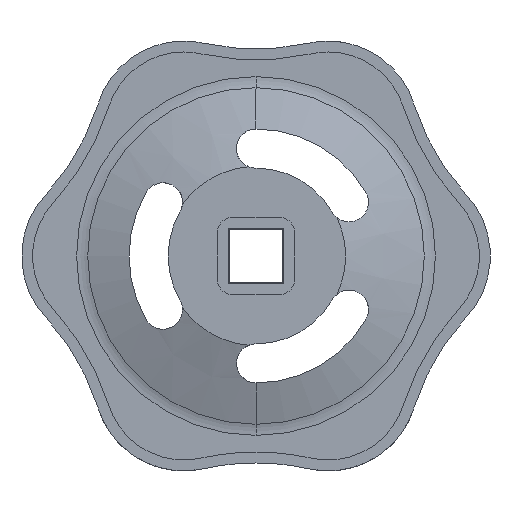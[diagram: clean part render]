
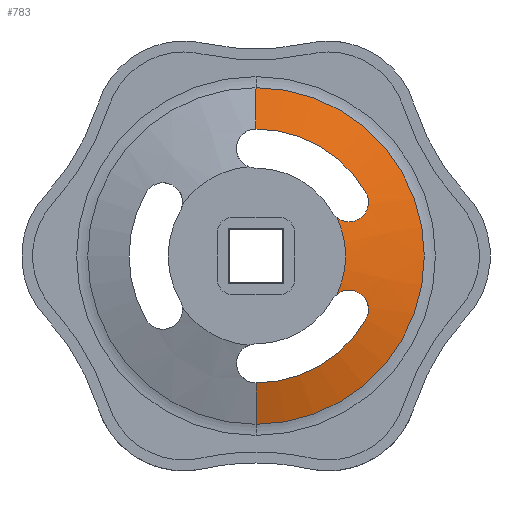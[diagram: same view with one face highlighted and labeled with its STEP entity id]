
A CAD part, left-side view. The second image highlights one B-rep face of the part: STEP entity #783.
In plain terms, the highlighted conical face has half-angle 72 degrees and reference radius 21.551 mm.
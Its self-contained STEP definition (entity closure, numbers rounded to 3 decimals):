
#3 = CARTESIAN_POINT ( 'NONE',  ( 8.653, -14.222, -7.866 ) ) ;
#16 = AXIS2_PLACEMENT_3D ( 'NONE', #666, #2339, #219 ) ;
#27 = EDGE_CURVE ( 'NONE', #854, #882, #1764, .T. ) ;
#32 = CARTESIAN_POINT ( 'NONE',  ( 8.581, -14.422, -7.004 ) ) ;
#33 = B_SPLINE_CURVE_WITH_KNOTS ( 'NONE', 3,
 ( #644, #2556, #840, #2234, #2045, #611, #2066, #3004 ),
 .UNSPECIFIED., .F., .F.,
 ( 4, 2, 2, 4 ),
 ( 0.005, 0.006, 0.006, 0.007 ),
 .UNSPECIFIED. ) ;
#90 = CARTESIAN_POINT ( 'NONE',  ( 8.611, -14.384, 7.288 ) ) ;
#99 = CARTESIAN_POINT ( 'NONE',  ( 10.375, 0., -21.551 ) ) ;
#169 = ORIENTED_EDGE ( 'NONE', *, *, #824, .T. ) ;
#188 = CARTESIAN_POINT ( 'NONE',  ( 8.342, -14.162, 5.773 ) ) ;
#204 = CARTESIAN_POINT ( 'NONE',  ( 7.974, -13.322, 4.802 ) ) ;
#214 = CARTESIAN_POINT ( 'NONE',  ( 7.203, -10.86, -4.587 ) ) ;
#219 = DIRECTION ( 'NONE',  ( 0., 0., -1. ) ) ;
#241 = CARTESIAN_POINT ( 'NONE',  ( 8.54, -14.42, -6.712 ) ) ;
#255 = CARTESIAN_POINT ( 'NONE',  ( 7.428, -11.692, -4.368 ) ) ;
#343 = AXIS2_PLACEMENT_3D ( 'NONE', #2116, #2147, #926 ) ;
#350 = DIRECTION ( 'NONE',  ( 0., 0., -1. ) ) ;
#377 = CARTESIAN_POINT ( 'NONE',  ( 8.653, -14.073, -8.125 ) ) ;
#393 = VERTEX_POINT ( 'NONE', #1754 ) ;
#448 = VERTEX_POINT ( 'NONE', #778 ) ;
#454 = CARTESIAN_POINT ( 'NONE',  ( 7.56, -12.122, 4.375 ) ) ;
#460 = ORIENTED_EDGE ( 'NONE', *, *, #2372, .T. ) ;
#466 = EDGE_CURVE ( 'NONE', #2594, #2145, #660, .T. ) ;
#500 = DIRECTION ( 'NONE',  ( 1., 0., 0. ) ) ;
#512 = DIRECTION ( 'NONE',  ( 0., 0., -1. ) ) ;
#531 = DIRECTION ( 'NONE',  ( -1., 0., 0. ) ) ;
#563 = CARTESIAN_POINT ( 'NONE',  ( 8.393, -14.251, 5.976 ) ) ;
#584 = ORIENTED_EDGE ( 'NONE', *, *, #2337, .F. ) ;
#611 = CARTESIAN_POINT ( 'NONE',  ( 7.198, -10.841, 4.597 ) ) ;
#644 = CARTESIAN_POINT ( 'NONE',  ( 7.495, -11.908, 4.375 ) ) ;
#660 = B_SPLINE_CURVE_WITH_KNOTS ( 'NONE', 3,
 ( #2453, #2922, #2200, #90, #794, #1740, #2690, #563, #188, #857, #874, #2559, #204, #1088, #2068, #2826, #454, #2796 ),
 .UNSPECIFIED., .F., .F.,
 ( 4, 2, 2, 2, 2, 2, 2, 2, 4 ),
 ( 0., 0.001, 0.001, 0.002, 0.003, 0.003, 0.004, 0.005, 0.005 ),
 .UNSPECIFIED. ) ;
#666 = CARTESIAN_POINT ( 'NONE',  ( 10.375, 0., 0. ) ) ;
#698 = ORIENTED_EDGE ( 'NONE', *, *, #709, .T. ) ;
#709 = EDGE_CURVE ( 'NONE', #1777, #2594, #897, .T. ) ;
#747 = CIRCLE ( 'NONE', #1539, 11.472 ) ;
#778 = CARTESIAN_POINT ( 'NONE',  ( 10.375, 0., 21.551 ) ) ;
#783 = ADVANCED_FACE ( 'NONE', ( #1202 ), #2132, .T. ) ;
#790 = CARTESIAN_POINT ( 'NONE',  ( 8.653, 0., -16.25 ) ) ;
#794 = CARTESIAN_POINT ( 'NONE',  ( 8.587, -14.411, 7.064 ) ) ;
#824 = EDGE_CURVE ( 'NONE', #882, #448, #1686, .T. ) ;
#840 = CARTESIAN_POINT ( 'NONE',  ( 7.413, -11.637, 4.386 ) ) ;
#854 = VERTEX_POINT ( 'NONE', #790 ) ;
#857 = CARTESIAN_POINT ( 'NONE',  ( 8.229, -13.938, 5.401 ) ) ;
#874 = CARTESIAN_POINT ( 'NONE',  ( 8.169, -13.804, 5.231 ) ) ;
#882 = VERTEX_POINT ( 'NONE', #980 ) ;
#897 = CIRCLE ( 'NONE', #343, 16.25 ) ;
#921 = CARTESIAN_POINT ( 'NONE',  ( 7.877, -13.064, -4.641 ) ) ;
#926 = DIRECTION ( 'NONE',  ( 0., 0., -1. ) ) ;
#949 = VERTEX_POINT ( 'NONE', #377 ) ;
#980 = CARTESIAN_POINT ( 'NONE',  ( 10.375, 0., -21.551 ) ) ;
#988 = ORIENTED_EDGE ( 'NONE', *, *, #1960, .T. ) ;
#998 = CARTESIAN_POINT ( 'NONE',  ( 7.1, -10.371, -4.903 ) ) ;
#1088 = CARTESIAN_POINT ( 'NONE',  ( 7.837, -12.949, 4.592 ) ) ;
#1103 = CARTESIAN_POINT ( 'NONE',  ( 10.375, 0., 21.551 ) ) ;
#1106 = EDGE_CURVE ( 'NONE', #949, #854, #1239, .T. ) ;
#1121 = DIRECTION ( 'NONE',  ( 0.309, 0., 0.951 ) ) ;
#1127 = ORIENTED_EDGE ( 'NONE', *, *, #466, .T. ) ;
#1142 = AXIS2_PLACEMENT_3D ( 'NONE', #2687, #531, #1214 ) ;
#1174 = B_SPLINE_CURVE_WITH_KNOTS ( 'NONE', 3,
 ( #1384, #2333, #214, #2097, #255, #3033, #2314, #921, #2835, #2805, #3047, #1654, #2142, #241, #32, #2128, #3, #1862 ),
 .UNSPECIFIED., .F., .F.,
 ( 4, 2, 2, 2, 2, 2, 2, 2, 4 ),
 ( 0., 0.001, 0.002, 0.003, 0.004, 0.004, 0.005, 0.006, 0.007 ),
 .UNSPECIFIED. ) ;
#1202 = FACE_OUTER_BOUND ( 'NONE', #2275, .T. ) ;
#1214 = DIRECTION ( 'NONE',  ( 0., 0., 1. ) ) ;
#1232 = DIRECTION ( 'NONE',  ( -1., 0., 0. ) ) ;
#1239 = CIRCLE ( 'NONE', #1348, 16.25 ) ;
#1244 = EDGE_CURVE ( 'NONE', #1396, #393, #747, .T. ) ;
#1348 = AXIS2_PLACEMENT_3D ( 'NONE', #2568, #500, #512 ) ;
#1384 = CARTESIAN_POINT ( 'NONE',  ( 7.1, -10.371, -4.903 ) ) ;
#1396 = VERTEX_POINT ( 'NONE', #998 ) ;
#1539 = AXIS2_PLACEMENT_3D ( 'NONE', #1951, #1232, #350 ) ;
#1581 = ORIENTED_EDGE ( 'NONE', *, *, #1244, .F. ) ;
#1597 = CARTESIAN_POINT ( 'NONE',  ( 7.495, -11.908, 4.375 ) ) ;
#1654 = CARTESIAN_POINT ( 'NONE',  ( 8.368, -14.213, -5.866 ) ) ;
#1686 = CIRCLE ( 'NONE', #1142, 21.551 ) ;
#1740 = CARTESIAN_POINT ( 'NONE',  ( 8.523, -14.405, 6.621 ) ) ;
#1754 = CARTESIAN_POINT ( 'NONE',  ( 7.1, -10.371, 4.903 ) ) ;
#1764 = LINE ( 'NONE', #99, #1903 ) ;
#1777 = VERTEX_POINT ( 'NONE', #2497 ) ;
#1862 = CARTESIAN_POINT ( 'NONE',  ( 8.653, -14.073, -8.125 ) ) ;
#1903 = VECTOR ( 'NONE', #2170, 1000. ) ;
#1951 = CARTESIAN_POINT ( 'NONE',  ( 7.1, 0., 0. ) ) ;
#1960 = EDGE_CURVE ( 'NONE', #1396, #949, #1174, .T. ) ;
#2011 = LINE ( 'NONE', #1103, #2867 ) ;
#2045 = CARTESIAN_POINT ( 'NONE',  ( 7.3, -11.233, 4.464 ) ) ;
#2066 = CARTESIAN_POINT ( 'NONE',  ( 7.142, -10.595, 4.729 ) ) ;
#2068 = CARTESIAN_POINT ( 'NONE',  ( 7.767, -12.749, 4.511 ) ) ;
#2097 = CARTESIAN_POINT ( 'NONE',  ( 7.346, -11.41, -4.408 ) ) ;
#2116 = CARTESIAN_POINT ( 'NONE',  ( 8.653, 0., 0. ) ) ;
#2127 = CARTESIAN_POINT ( 'NONE',  ( 8.653, -14.073, 8.125 ) ) ;
#2128 = CARTESIAN_POINT ( 'NONE',  ( 8.638, -14.322, -7.589 ) ) ;
#2132 = CONICAL_SURFACE ( 'NONE', #16, 21.551, 1.257 ) ;
#2142 = CARTESIAN_POINT ( 'NONE',  ( 8.432, -14.314, -6.136 ) ) ;
#2145 = VERTEX_POINT ( 'NONE', #1597 ) ;
#2147 = DIRECTION ( 'NONE',  ( 1., 0., 0. ) ) ;
#2170 = DIRECTION ( 'NONE',  ( 0.309, 0., -0.951 ) ) ;
#2200 = CARTESIAN_POINT ( 'NONE',  ( 8.644, -14.271, 7.722 ) ) ;
#2234 = CARTESIAN_POINT ( 'NONE',  ( 7.337, -11.368, 4.43 ) ) ;
#2275 = EDGE_LOOP ( 'NONE', ( #584, #698, #1127, #460, #1581, #988, #2790, #2799, #169 ) ) ;
#2314 = CARTESIAN_POINT ( 'NONE',  ( 7.694, -12.536, -4.439 ) ) ;
#2333 = CARTESIAN_POINT ( 'NONE',  ( 7.143, -10.604, -4.721 ) ) ;
#2337 = EDGE_CURVE ( 'NONE', #1777, #448, #2011, .T. ) ;
#2339 = DIRECTION ( 'NONE',  ( 1., 0., 0. ) ) ;
#2372 = EDGE_CURVE ( 'NONE', #2145, #393, #33, .T. ) ;
#2453 = CARTESIAN_POINT ( 'NONE',  ( 8.653, -14.073, 8.125 ) ) ;
#2497 = CARTESIAN_POINT ( 'NONE',  ( 8.653, 0., 16.25 ) ) ;
#2556 = CARTESIAN_POINT ( 'NONE',  ( 7.453, -11.772, 4.375 ) ) ;
#2559 = CARTESIAN_POINT ( 'NONE',  ( 8.04, -13.493, 4.93 ) ) ;
#2568 = CARTESIAN_POINT ( 'NONE',  ( 8.653, 0., 0. ) ) ;
#2594 = VERTEX_POINT ( 'NONE', #2127 ) ;
#2687 = CARTESIAN_POINT ( 'NONE',  ( 10.375, 0., 0. ) ) ;
#2690 = CARTESIAN_POINT ( 'NONE',  ( 8.484, -14.372, 6.398 ) ) ;
#2790 = ORIENTED_EDGE ( 'NONE', *, *, #1106, .T. ) ;
#2796 = CARTESIAN_POINT ( 'NONE',  ( 7.495, -11.908, 4.375 ) ) ;
#2799 = ORIENTED_EDGE ( 'NONE', *, *, #27, .T. ) ;
#2805 = CARTESIAN_POINT ( 'NONE',  ( 8.141, -13.741, -5.151 ) ) ;
#2826 = CARTESIAN_POINT ( 'NONE',  ( 7.629, -12.338, 4.403 ) ) ;
#2835 = CARTESIAN_POINT ( 'NONE',  ( 7.967, -13.306, -4.783 ) ) ;
#2867 = VECTOR ( 'NONE', #1121, 1000. ) ;
#2922 = CARTESIAN_POINT ( 'NONE',  ( 8.653, -14.186, 7.929 ) ) ;
#3004 = CARTESIAN_POINT ( 'NONE',  ( 7.1, -10.371, 4.903 ) ) ;
#3033 = CARTESIAN_POINT ( 'NONE',  ( 7.603, -12.26, -4.384 ) ) ;
#3047 = CARTESIAN_POINT ( 'NONE',  ( 8.221, -13.923, -5.368 ) ) ;
